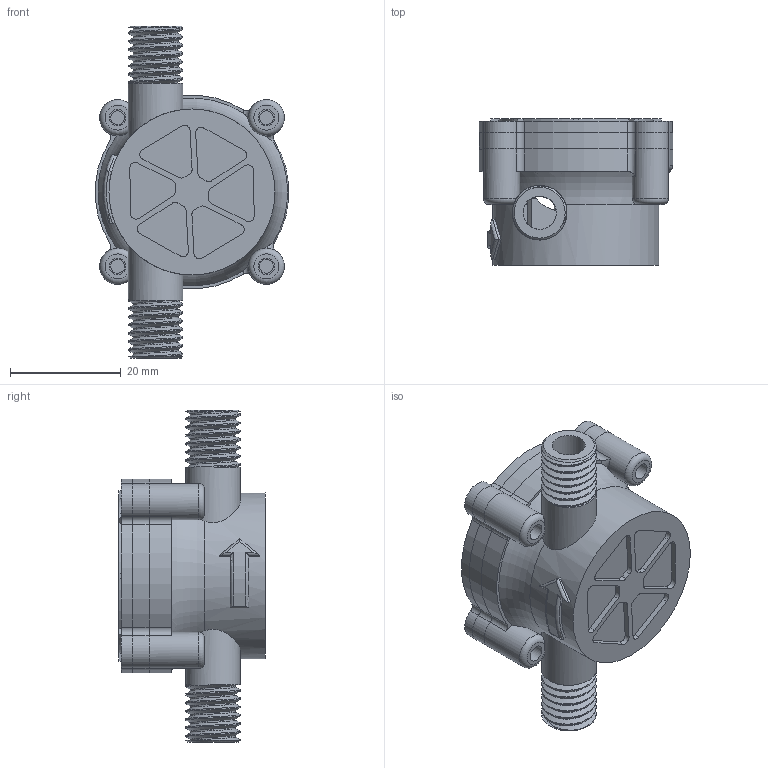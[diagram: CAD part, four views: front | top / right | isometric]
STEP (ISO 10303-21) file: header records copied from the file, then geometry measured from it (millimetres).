
FILE_DESCRIPTION(/* description */ (''),/* implementation_level */ '2;1');
FILE_NAME(/* name */ 'C:\Users\admin\Desktop\inventor\sensore portata\step\sensore_portata.stp',/* time_stamp */ '2021-10-08T16:17:39+02:00',/* author */ ('admin'),/* organization */ (''),/* preprocessor_version */ 'ST-DEVELOPER v18.1',/* originating_system */ 'Autodesk Inventor 2022',/* authorisation */ '');
FILE_SCHEMA (('AUTOMOTIVE_DESIGN { 1 0 10303 214 3 1 1 }'));
Length unit declared in the file: millimetre
Products named in the file (9): sensore_portata; rubber; sens; sensor tag; sensor tag1; boolt; cassa v1; cuscinetto_5x3; cuscinetto_5x3x1
Assembly tree (11 placements, depth 2):
  sensore_portata
    rubber
    sens
    sensor tag
    sensor tag1
    boolt  x4
    cassa v1
    cuscinetto_5x3
    cuscinetto_5x3x1
Bounding box: 34.89 x 26.5 x 60 mm (x, y, z)
Volume: 14923.3 mm3; surface area: 17575.4 mm2
Topology: 11 solids, 11 shells, 423 faces, 1103 edges, 722 vertices
Faces by surface type: plane 206, cylinder 188, torus 16, bspline 11, cone 2
Full cylindrical faces by diameter (mm): 2 x1, 2.5 x4, 3 x7, 4 x12, 5 x3, 6 x3, 6.2 x1, 6.5 x4, 8 x1, 8.141 x12, 9.85 x14, 10 x1, 12 x1, 20 x1, 28 x1, 30 x2, 30.5 x1, 31.5 x1
Entity records: 21849 total; most frequent: CARTESIAN_POINT 11589, ORIENTED_EDGE 2068, DIRECTION 2067, EDGE_CURVE 1034, AXIS2_PLACEMENT_3D 769, VERTEX_POINT 680, LINE 529, VECTOR 529
